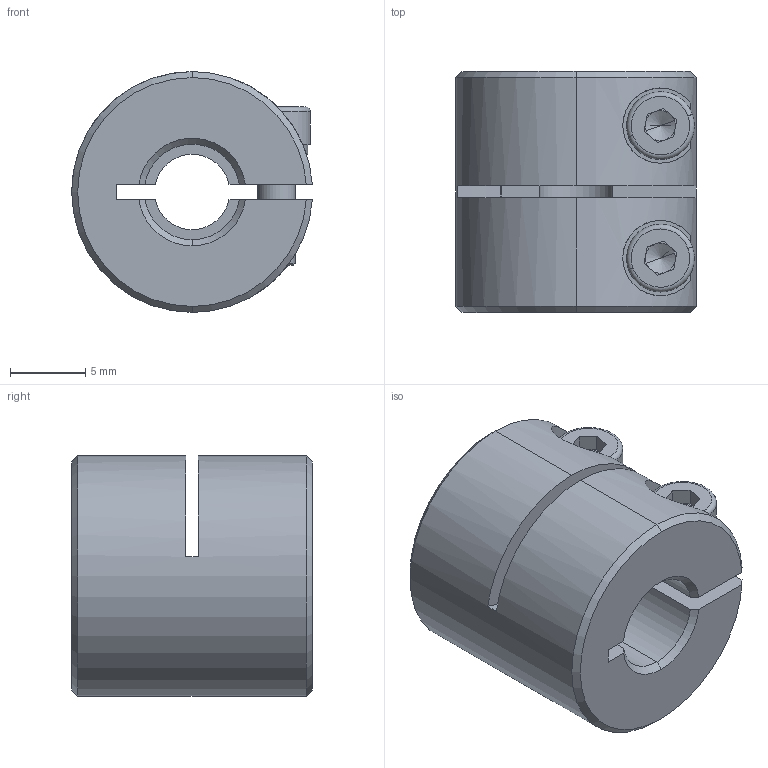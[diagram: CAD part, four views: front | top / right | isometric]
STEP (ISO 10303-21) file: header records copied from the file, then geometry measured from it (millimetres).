
FILE_DESCRIPTION (( 'STEP AP203' ), '1' );
FILE_NAME ('LL-B-D16L16-5-6.35.STEP', '2021-11-03T02:41:03', ( '' ), ( '' ), 'SwSTEP 2.0', 'SolidWorks 2018', '' );
FILE_SCHEMA (( 'CONFIG_CONTROL_DESIGN' ));
Length unit declared in the file: millimetre
Products named in the file (1): LL-B-D16L16-5-6.35
Bounding box: 15.98 x 16 x 16 mm (x, y, z)
Volume: 2591.2 mm3; surface area: 2020.8 mm2
Topology: 1 solids, 1 shells, 121 faces, 313 edges, 196 vertices
Faces by surface type: plane 52, cylinder 45, cone 20, torus 4
Entity records: 3948 total; most frequent: CARTESIAN_POINT 879, DIRECTION 653, ORIENTED_EDGE 618, EDGE_CURVE 309, AXIS2_PLACEMENT_3D 254, VERTEX_POINT 196, VECTOR 145, LINE 145
